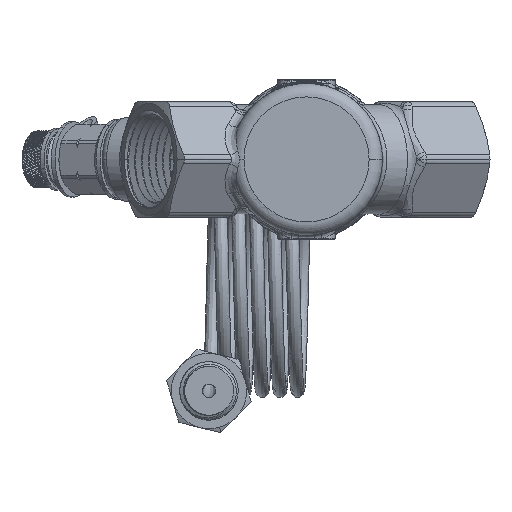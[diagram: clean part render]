
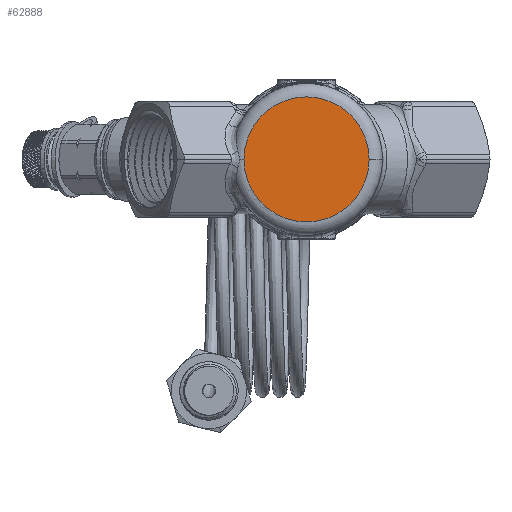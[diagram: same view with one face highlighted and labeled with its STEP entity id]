
A CAD part, front view. The second image highlights one B-rep face of the part: STEP entity #62888.
In plain terms, the highlighted planar face has unit normal (0, -1, 0).
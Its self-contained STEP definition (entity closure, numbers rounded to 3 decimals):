
#2163 = ORIENTED_EDGE ( 'NONE', *, *, #119908, .T. ) ;
#61461 = DIRECTION ( 'NONE',  ( -1., 0., 0. ) ) ;
#62888 = ADVANCED_FACE ( 'NONE', ( #121649 ), #100566, .F. ) ;
#64480 = DIRECTION ( 'NONE',  ( 1., 0., 0. ) ) ;
#81452 = CARTESIAN_POINT ( 'NONE',  ( -2.5, -57.3, 0. ) ) ;
#100566 = PLANE ( 'NONE',  #325723 ) ;
#116731 = DIRECTION ( 'NONE',  ( 0., -1., 0. ) ) ;
#119908 = EDGE_CURVE ( 'NONE', #169075, #167916, #154772, .T. ) ;
#121649 = FACE_OUTER_BOUND ( 'NONE', #162385, .T. ) ;
#126037 = ORIENTED_EDGE ( 'NONE', *, *, #170682, .T. ) ;
#148486 = AXIS2_PLACEMENT_3D ( 'NONE', #200638, #116731, #61461 ) ;
#154772 = CIRCLE ( 'NONE', #148486, 14.1 ) ;
#161254 = AXIS2_PLACEMENT_3D ( 'NONE', #81452, #197703, #313929 ) ;
#162385 = EDGE_LOOP ( 'NONE', ( #126037, #2163 ) ) ;
#167916 = VERTEX_POINT ( 'NONE', #344161 ) ;
#169075 = VERTEX_POINT ( 'NONE', #213496 ) ;
#170682 = EDGE_CURVE ( 'NONE', #167916, #169075, #173433, .T. ) ;
#173433 = CIRCLE ( 'NONE', #161254, 14.1 ) ;
#197703 = DIRECTION ( 'NONE',  ( 0., -1., 0. ) ) ;
#200638 = CARTESIAN_POINT ( 'NONE',  ( -2.5, -57.3, 0. ) ) ;
#213496 = CARTESIAN_POINT ( 'NONE',  ( 11.6, -57.3, 0. ) ) ;
#313929 = DIRECTION ( 'NONE',  ( -1., 0., 0. ) ) ;
#325494 = DIRECTION ( 'NONE',  ( 0., 1., 0. ) ) ;
#325723 = AXIS2_PLACEMENT_3D ( 'NONE', #354113, #325494, #64480 ) ;
#344161 = CARTESIAN_POINT ( 'NONE',  ( -16.6, -57.3, 0. ) ) ;
#354113 = CARTESIAN_POINT ( 'NONE',  ( -2.5, -57.3, 0. ) ) ;
